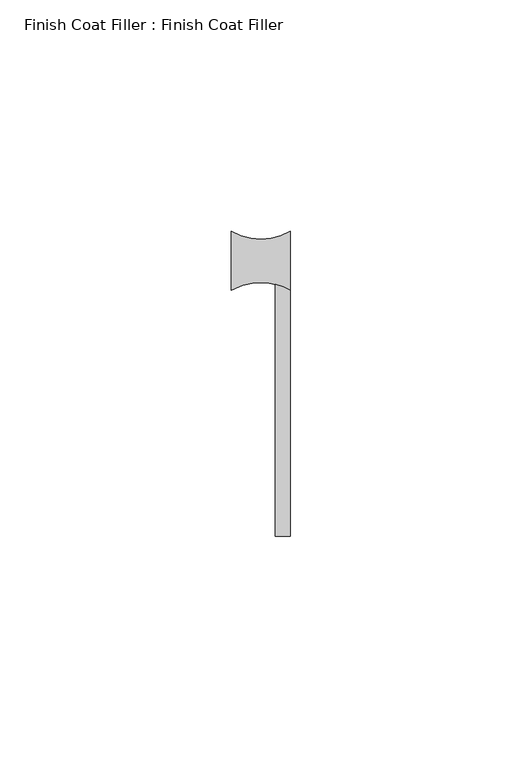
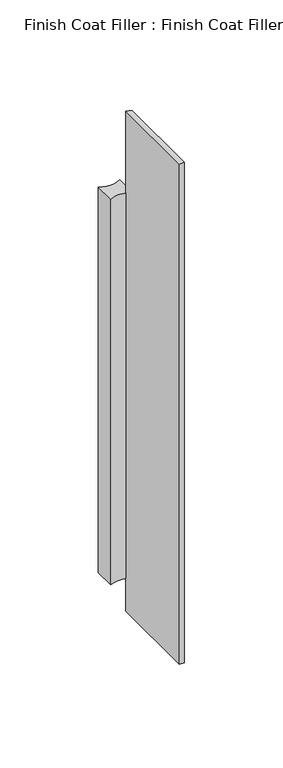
"""IFC4 building model written with IfcOpenShell, lengths in millimetres: proxy geometry, Finish Coat Filler : Finish Coat Filler."""

import ifcopenshell
import ifcopenshell.guid

model = None  # the IFC model being written
_history = None  # IfcOwnerHistory: only IFC2X3 demands one
_inside = {}  # id of a spatial element -> (the spatial element, [elements in it])
_under = {}  # id of a project, library or spatial element -> (it, [spatial elements below it])
_declared = {}  # id of a project -> (the project, [libraries it declares])
_typed = {}  # id of a type object -> (the type object, [elements of that type])
_made_of = {}  # id of a material, layer set ... -> (it, [elements and type objects made of it])


def new_model(schema):
    """Start an empty IFC model of exactly this schema.

    Asked for "IFC4X3", IfcOpenShell would pick the latest addendum, in which some entities
    have other attributes; the version numbers below select the first issue.
    IFC2X3 requires an IfcOwnerHistory on every rooted entity: one is made here for all.
    """
    global model, _history
    if schema == "IFC4X3":
        model = ifcopenshell.file(schema_version=(4, 3, 0, 0))
    else:
        model = ifcopenshell.file(schema=schema)
    _inside.clear()
    _under.clear()
    _declared.clear()
    _typed.clear()
    _made_of.clear()
    _history = None
    if model.schema == "IFC2X3":
        org = make("IfcOrganization", Name="unknown")
        user = make(
            "IfcPersonAndOrganization",
            ThePerson=make("IfcPerson", FamilyName="unknown"),
            TheOrganization=org,
        )
        app = make(
            "IfcApplication",
            ApplicationDeveloper=org,
            Version="unknown",
            ApplicationFullName="unknown",
            ApplicationIdentifier="unknown",
        )
        _history = make(
            "IfcOwnerHistory",
            OwningUser=user,
            OwningApplication=app,
            ChangeAction="ADDED",
            CreationDate=0,
        )
    return model


def make(cls, **values):
    """One entity of the class cls with the attributes given. An attribute that is None is left unset."""
    return model.create_entity(
        cls, **{name: value for name, value in values.items() if value is not None}
    )


def rooted(cls, **values):
    """An entity with a GlobalId (a new one), such as an element, a storey or a relation."""
    return make(cls, GlobalId=ifcopenshell.guid.new(), OwnerHistory=_history, **values)


def si_unit(unit_type, name, prefix=None):
    """IfcSIUnit, for example si_unit("LENGTHUNIT", "METRE", prefix="MILLI")."""
    return make("IfcSIUnit", UnitType=unit_type, Prefix=prefix, Name=name)


def assignment(units):
    """IfcUnitAssignment: the units of a project."""
    return None if units is None else make("IfcUnitAssignment", Units=units)


def point(xyz):
    """IfcCartesianPoint."""
    return None if xyz is None else make("IfcCartesianPoint", Coordinates=xyz)


def direction(xyz):
    """IfcDirection."""
    return None if xyz is None else make("IfcDirection", DirectionRatios=xyz)


def frame(location, z_axis=None, x_axis=None):
    """IfcAxis2Placement3D, a coordinate frame: its origin and axes. An axis left out is left unset."""
    return make(
        "IfcAxis2Placement3D",
        Location=point(location),
        Axis=direction(z_axis),
        RefDirection=direction(x_axis),
    )


def frame_2d(location, x_axis=None):
    """IfcAxis2Placement2D, a coordinate frame in the plane: its origin and x axis."""
    return make(
        "IfcAxis2Placement2D", Location=point(location), RefDirection=direction(x_axis)
    )


def origin():
    """The frame at (0, 0, 0) with its axes left unset."""
    return frame((0.0, 0.0, 0.0))


def place(relative_to, where):
    """IfcLocalPlacement: puts the frame where relative to a parent placement (None: the world)."""
    return make(
        "IfcLocalPlacement", PlacementRelTo=relative_to, RelativePlacement=where
    )


def context(
    kind, dimensions, precision=None, world=None, true_north=None, identifier=None
):
    """IfcGeometricRepresentationContext, for example the 3D "Model" context."""
    return make(
        "IfcGeometricRepresentationContext",
        ContextIdentifier=identifier,
        ContextType=kind,
        CoordinateSpaceDimension=dimensions,
        Precision=precision,
        WorldCoordinateSystem=world,
        TrueNorth=true_north,
    )


def project(units=None, contexts=None):
    """IfcProject with its units and contexts."""
    return rooted(
        "IfcProject",
        Name="project",
        RepresentationContexts=contexts,
        UnitsInContext=assignment(units),
    )


def spatial(cls, under=None, at=None, **own):
    """A site, building, storey or space (cls), placed at a placement, below another one or the project."""
    s = rooted(cls, ObjectPlacement=at, **own)
    if under is not None:
        _under.setdefault(under.id(), (under, []))[1].append(s)
    return s


def polyline(points):
    """IfcPolyline through the points."""
    return make("IfcPolyline", Points=[point(p) for p in points])


def circle_curve(where, radius):
    """IfcCircle in the frame where."""
    return make("IfcCircle", Position=where, Radius=radius)


def trimmed(basis, trim1, trim2, sense, master):
    """IfcTrimmedCurve: the piece of a basis curve between two trims."""
    return make(
        "IfcTrimmedCurve",
        BasisCurve=basis,
        Trim1=trim1,
        Trim2=trim2,
        SenseAgreement=sense,
        MasterRepresentation=master,
    )


def segment(curve, same_sense, transition):
    """IfcCompositeCurveSegment."""
    return make(
        "IfcCompositeCurveSegment",
        Transition=transition,
        SameSense=same_sense,
        ParentCurve=curve,
    )


def composite_curve(segments, self_intersect=None):
    """IfcCompositeCurve: segments joined end to end."""
    return make("IfcCompositeCurve", Segments=segments, SelfIntersect=self_intersect)


def outline(outer, holes=None, kind="AREA"):
    """IfcArbitraryClosedProfileDef: a profile drawn as a closed curve; with holes, ...WithVoids."""
    if holes is None:
        return make("IfcArbitraryClosedProfileDef", ProfileType=kind, OuterCurve=outer)
    return make(
        "IfcArbitraryProfileDefWithVoids",
        ProfileType=kind,
        OuterCurve=outer,
        InnerCurves=holes,
    )


def extrude(swept, where, along, depth):
    """IfcExtrudedAreaSolid: the profile swept, set in the frame where, extruded along a direction by depth."""
    return make(
        "IfcExtrudedAreaSolid",
        SweptArea=swept,
        Position=where,
        ExtrudedDirection=direction(along),
        Depth=depth,
    )


def shape(context_of_items, identifier, shape_type, items):
    """IfcShapeRepresentation: the items that make up one representation, for example the "Body"."""
    return make(
        "IfcShapeRepresentation",
        ContextOfItems=context_of_items,
        RepresentationIdentifier=identifier,
        RepresentationType=shape_type,
        Items=items,
    )


def source(mapping_origin, context_of_items, identifier, shape_type, items):
    """IfcRepresentationMap: a shape defined once, which mapped items show again and again."""
    return make(
        "IfcRepresentationMap",
        MappingOrigin=mapping_origin,
        MappedRepresentation=shape(context_of_items, identifier, shape_type, items),
    )


def transform(
    local_origin,
    x_axis=None,
    y_axis=None,
    z_axis=None,
    scale=None,
    scale2=None,
    scale3=None,
    uniform=True,
):
    """IfcCartesianTransformationOperator3D, or its non-uniform kind. x_axis, y_axis, z_axis: its Axis1, 2, 3."""
    if uniform:
        return make(
            "IfcCartesianTransformationOperator3D",
            Axis1=direction(x_axis),
            Axis2=direction(y_axis),
            LocalOrigin=point(local_origin),
            Scale=scale,
            Axis3=direction(z_axis),
        )
    return make(
        "IfcCartesianTransformationOperator3DnonUniform",
        Axis1=direction(x_axis),
        Axis2=direction(y_axis),
        LocalOrigin=point(local_origin),
        Scale=scale,
        Axis3=direction(z_axis),
        Scale2=scale2,
        Scale3=scale3,
    )


def mapped(mapping_source, mapping_target):
    """IfcMappedItem: shows the shape of a source again, moved by a transform."""
    return make(
        "IfcMappedItem", MappingSource=mapping_source, MappingTarget=mapping_target
    )


def made_of(thing, what):
    """Note that an element or type object is made of a material, layer set ...; save() writes the relation."""
    if what is not None:
        _made_of.setdefault(what.id(), (what, []))[1].append(thing)
    return thing


def element(
    cls,
    number,
    at=None,
    inside=None,
    cuts=None,
    type_object=None,
    material=None,
    context=None,
    identifier="Body",
    shape_type=None,
    held_by="IfcProductDefinitionShape",
    body=None,
    shapes=None,
    **own,
):
    """One element of the class cls, such as IfcWall. Its Tag is "e" and its number.

    at: its placement. inside: the storey or other place that contains it. cuts: it is an
    opening in that element (IfcRelVoidsElement). A single representation is given by context,
    identifier, shape_type and body (its items); several are given by shapes. held_by: the class
    of the entity that holds the representations. save() writes the other relations.
    """
    e = rooted(cls, Tag="e%d" % number, ObjectPlacement=at, **own)
    if body is not None:
        shapes = [shape(context, identifier, shape_type, body)]
    if shapes is not None:
        e.Representation = make(held_by, Representations=shapes)
    if inside is not None:
        _inside.setdefault(inside.id(), (inside, []))[1].append(e)
    if cuts is not None:
        rooted(
            "IfcRelVoidsElement", RelatingBuildingElement=cuts, RelatedOpeningElement=e
        )
    if type_object is not None:
        _typed.setdefault(type_object.id(), (type_object, []))[1].append(e)
    return made_of(e, material)


def aggregate(whole, parts):
    """IfcRelAggregates: a whole, such as a stair, and the parts it consists of."""
    return rooted("IfcRelAggregates", RelatingObject=whole, RelatedObjects=parts)


def save(model, path):
    """Write the relations noted so far, then the file.

    IfcRelAggregates (storeys below a building ...), IfcRelContainedInSpatialStructure (elements
    in a storey), IfcRelDefinesByType, IfcRelAssociatesMaterial and IfcRelDeclares: one each for
    every whole, place, type object, material and project.
    """
    for whole, parts in _under.values():
        aggregate(whole, parts)
    for where, things in _inside.values():
        rooted(
            "IfcRelContainedInSpatialStructure",
            RelatedElements=things,
            RelatingStructure=where,
        )
    for kind, things in _typed.values():
        rooted("IfcRelDefinesByType", RelatedObjects=things, RelatingType=kind)
    for what, things in _made_of.values():
        rooted("IfcRelAssociatesMaterial", RelatedObjects=things, RelatingMaterial=what)
    for by, libraries in _declared.values():
        rooted("IfcRelDeclares", RelatingContext=by, RelatedDefinitions=libraries)
    model.write(path)


def finish_coat_filler_finish_coat_filler_dfa12fb7(model_context):
    return source(origin(), model_context, "Body", "SweptSolid", [
        extrude(outline(composite_curve([segment(polyline([(26843.1851773, 591.9128797), (26843.1851773, 604.6128797)]), True, "CONTINUOUS"), segment(trimmed(circle_curve(frame_2d((26849.5351773, 615.6114023)), 12.7), [point((26843.1851773, 604.6128797))], [point((26855.8851773, 604.6128797))], True, "CARTESIAN"), True, "CONTINUOUS"), segment(polyline([(26855.8851773, 604.6128797), (26855.8851773, 591.9128797)]), True, "CONTINUOUS"), segment(trimmed(circle_curve(frame_2d((26849.5351773, 580.914357)), 12.7), [point((26855.8851773, 591.9128797))], [point((26843.1851773, 591.9128797))], True, "CARTESIAN"), True, "CONTINUOUS")], self_intersect=False)), frame((0.0, 0.0, 471.4875), z_axis=(0.0, 0.0, 1.0), x_axis=(1.0, 0.0, 0.0)), (0.0, 0.0, 1.0), 239.7125),
        extrude(outline(composite_curve([segment(polyline([(26852.7101773, 538.7316297), (26852.7101773, 593.2110791)]), True, "CONTINUOUS"), segment(trimmed(circle_curve(frame_2d((26849.5351773, 580.914357)), 12.7), [point((26852.7101773, 593.2110791))], [point((26855.8851773, 591.9128797))], False, "CARTESIAN"), True, "CONTINUOUS"), segment(polyline([(26855.8851773, 591.9128797), (26855.8851773, 538.7316297), (26852.7101773, 538.7316297)]), True, "CONTINUOUS")], self_intersect=False)), frame((0.0, 0.0, 450.975778), z_axis=(0.0, 0.0, 1.0), x_axis=(1.0, 0.0, 0.0)), (0.0, 0.0, 1.0), 311.024222),
    ])


if __name__ == "__main__":
    model = new_model("IFC4")
    model_context = context("Model", 3, world=origin())
    ifc_project = project(units=[si_unit("LENGTHUNIT", "METRE", prefix="MILLI")], contexts=[model_context])
    site = spatial("IfcSite", under=ifc_project)
    building = spatial("IfcBuilding", under=site)
    placement = place(None, origin())
    finish_coat_filler_finish_coat_filler_shape = finish_coat_filler_finish_coat_filler_dfa12fb7(model_context)
    element("IfcBuildingElementProxy", 1, Name="Finish Coat Filler : Finish Coat Filler", ObjectType="Finish Coat Filler : Finish Coat Filler", at=placement, inside=building, context=model_context, shape_type="MappedRepresentation", body=[
        mapped(finish_coat_filler_finish_coat_filler_shape, transform((0.0, 0.0, 0.0), x_axis=(1.0, 0.0, 0.0), y_axis=(0.0, 1.0, 0.0), z_axis=(0.0, 0.0, 1.0))),
    ])
    save(model, "model.ifc")
